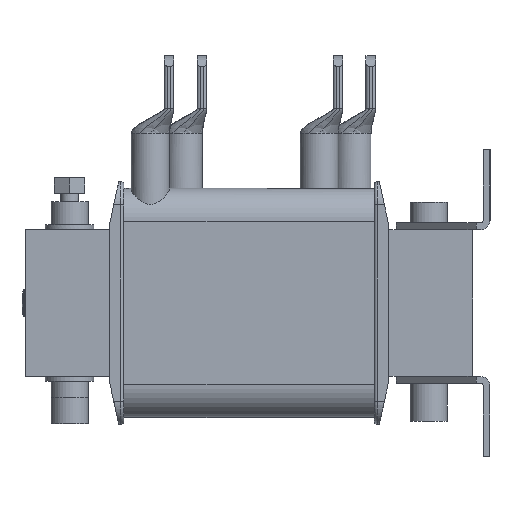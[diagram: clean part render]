
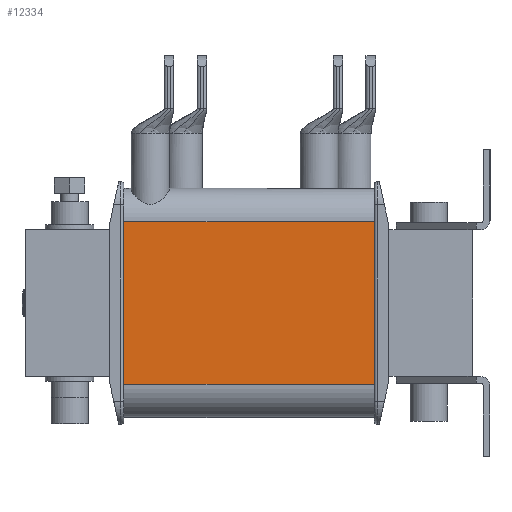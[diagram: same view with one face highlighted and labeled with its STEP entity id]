
A CAD part, left-side view. The second image highlights one B-rep face of the part: STEP entity #12334.
In plain terms, the highlighted planar face has unit normal (-1, 0, 0).
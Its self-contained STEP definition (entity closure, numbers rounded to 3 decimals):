
#368 = FACE_OUTER_BOUND ( 'NONE', #8197, .T. ) ;
#712 = DIRECTION ( 'NONE',  ( 0., -1., 0. ) ) ;
#1096 = ORIENTED_EDGE ( 'NONE', *, *, #7478, .T. ) ;
#2362 = AXIS2_PLACEMENT_3D ( 'NONE', #11839, #9699, #2752 ) ;
#2752 = DIRECTION ( 'NONE',  ( 0., 0., -1. ) ) ;
#2756 = CARTESIAN_POINT ( 'NONE',  ( -113., 158.05, -35. ) ) ;
#3092 = CARTESIAN_POINT ( 'NONE',  ( -113., 158.05, -35. ) ) ;
#4243 = DIRECTION ( 'NONE',  ( 0., 0., 1. ) ) ;
#4691 = EDGE_CURVE ( 'NONE', #5357, #10507, #5405, .T. ) ;
#4894 = VECTOR ( 'NONE', #4243, 1000. ) ;
#5034 = DIRECTION ( 'NONE',  ( 0., 0., 1. ) ) ;
#5037 = PLANE ( 'NONE',  #2362 ) ;
#5062 = ORIENTED_EDGE ( 'NONE', *, *, #11904, .F. ) ;
#5281 = VECTOR ( 'NONE', #13925, 1000. ) ;
#5357 = VERTEX_POINT ( 'NONE', #10099 ) ;
#5405 = LINE ( 'NONE', #6561, #4894 ) ;
#6113 = LINE ( 'NONE', #11755, #7989 ) ;
#6561 = CARTESIAN_POINT ( 'NONE',  ( -113., 49.95, -35. ) ) ;
#6845 = CARTESIAN_POINT ( 'NONE',  ( -113., 158.05, 35. ) ) ;
#7065 = CARTESIAN_POINT ( 'NONE',  ( -113., 158.05, 35. ) ) ;
#7137 = LINE ( 'NONE', #7065, #5281 ) ;
#7478 = EDGE_CURVE ( 'NONE', #13054, #5357, #9806, .T. ) ;
#7673 = VECTOR ( 'NONE', #712, 1000. ) ;
#7903 = ORIENTED_EDGE ( 'NONE', *, *, #11261, .F. ) ;
#7989 = VECTOR ( 'NONE', #5034, 1000. ) ;
#8197 = EDGE_LOOP ( 'NONE', ( #10581, #5062, #7903, #1096 ) ) ;
#9699 = DIRECTION ( 'NONE',  ( 1., 0., 0. ) ) ;
#9806 = LINE ( 'NONE', #3092, #7673 ) ;
#10099 = CARTESIAN_POINT ( 'NONE',  ( -113., 49.95, -35. ) ) ;
#10282 = VERTEX_POINT ( 'NONE', #6845 ) ;
#10507 = VERTEX_POINT ( 'NONE', #13694 ) ;
#10581 = ORIENTED_EDGE ( 'NONE', *, *, #4691, .T. ) ;
#11261 = EDGE_CURVE ( 'NONE', #13054, #10282, #6113, .T. ) ;
#11755 = CARTESIAN_POINT ( 'NONE',  ( -113., 158.05, -35. ) ) ;
#11839 = CARTESIAN_POINT ( 'NONE',  ( -113., 158.05, -35. ) ) ;
#11904 = EDGE_CURVE ( 'NONE', #10282, #10507, #7137, .T. ) ;
#12334 = ADVANCED_FACE ( 'NONE', ( #368 ), #5037, .F. ) ;
#13054 = VERTEX_POINT ( 'NONE', #2756 ) ;
#13694 = CARTESIAN_POINT ( 'NONE',  ( -113., 49.95, 35. ) ) ;
#13925 = DIRECTION ( 'NONE',  ( 0., -1., 0. ) ) ;
